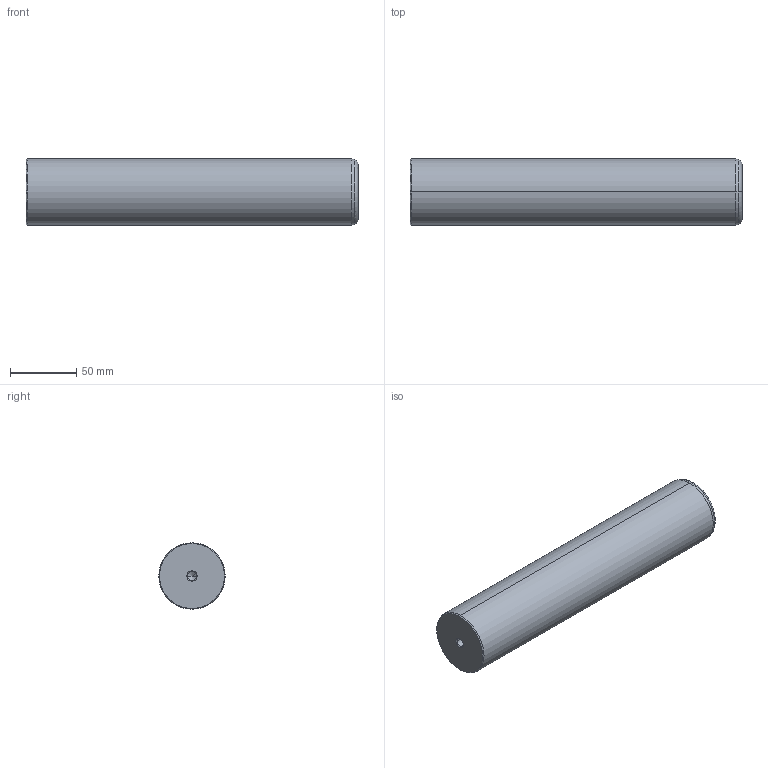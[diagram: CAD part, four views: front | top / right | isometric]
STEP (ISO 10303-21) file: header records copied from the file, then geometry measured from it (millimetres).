
FILE_DESCRIPTION(('CATIA V5 STEP Exchange'),'2;1');
FILE_NAME('C:\Users\Utente\Desktop\IO LAVORO\3D X SITO CF\X SITO\720\720-50x250.stp','2020-12-30T21:42:09+00:00',('none'),('none'),'CATIA Version 5 Release 20 GA (IN-10)','CATIA V5 STEP AP203','none');
FILE_SCHEMA(('CONFIG_CONTROL_DESIGN'));
Length unit declared in the file: millimetre
Products named in the file (1): 720-50x250
Bounding box: 250 x 50 x 50 mm (x, y, z)
Volume: 488329.1 mm3; surface area: 43789.6 mm2
Topology: 1 solids, 1 shells, 22 faces, 56 edges, 34 vertices
Faces by surface type: cone 12, cylinder 6, plane 2, torus 2
Entity records: 755 total; most frequent: CARTESIAN_POINT 216, ORIENTED_EDGE 104, DIRECTION 89, EDGE_CURVE 52, AXIS2_PLACEMENT_3D 50, VERTEX_POINT 34, CIRCLE 27, EDGE_LOOP 24
